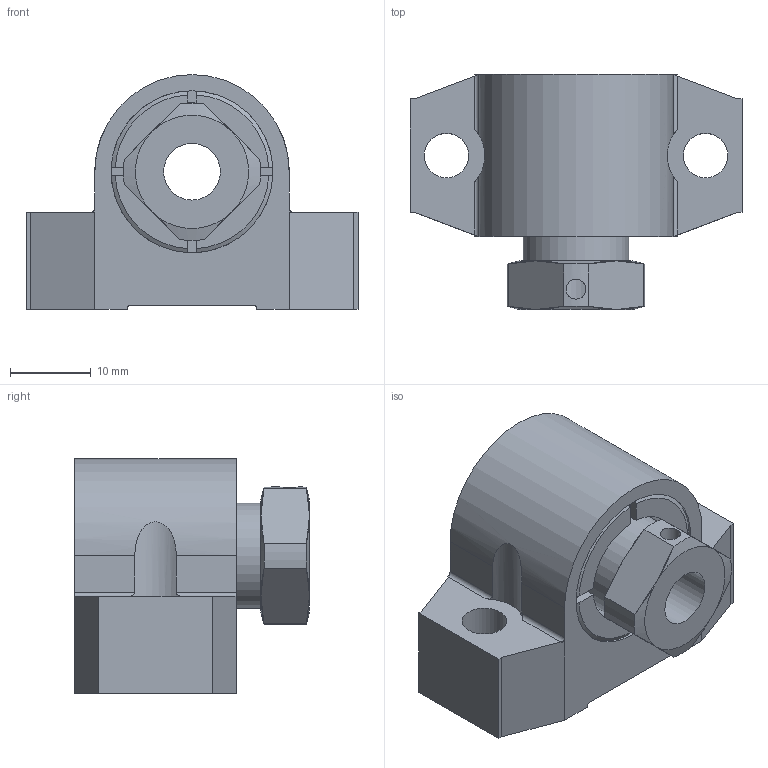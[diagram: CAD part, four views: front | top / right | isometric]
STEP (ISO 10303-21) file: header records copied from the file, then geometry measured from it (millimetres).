
FILE_DESCRIPTION((''),'1');
FILE_NAME('C:/Users/h-sekido/Desktop/今日のごみ/図面/作成中3D/クロクポ/stp/', '2021-04-30T04:31:30',(''), (''), 'KCM Version 1.1.1442.0', 'Kubotek KeyCreator', '');
FILE_SCHEMA(('AUTOMOTIVE_DESIGN'));
Length unit declared in the file: millimetre
Bounding box: 41 x 29.02 x 29 mm (x, y, z)
Surface area: 6103.1 mm2 (no closed solid volume)
Topology: 0 solids, 90 shells, 90 faces, 455 edges, 444 vertices
Faces by surface type: plane 50, cylinder 24, cone 12, bspline 4
Full cylindrical faces by diameter (mm): 2.46 x1, 5.5 x2, 7 x1, 8 x1, 10.5 x2, 13 x1, 14 x1, 16.5 x1, 20 x1
Entity records: 4916 total; most frequent: CARTESIAN_POINT 1492, DIRECTION 657, ORIENTED_EDGE 466, EDGE_CURVE 455, VERTEX_POINT 435, VECTOR 225, LINE 225, AXIS2_PLACEMENT_3D 216
